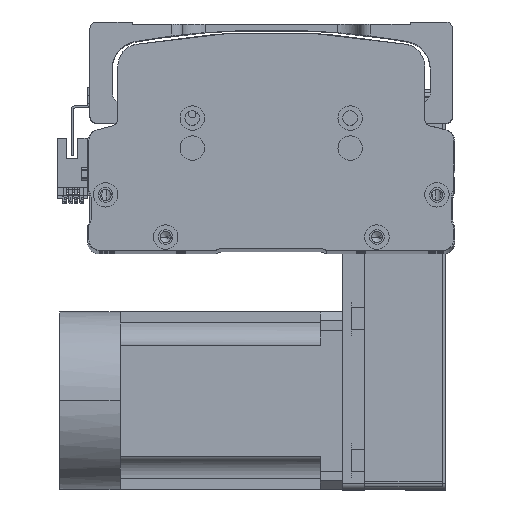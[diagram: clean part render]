
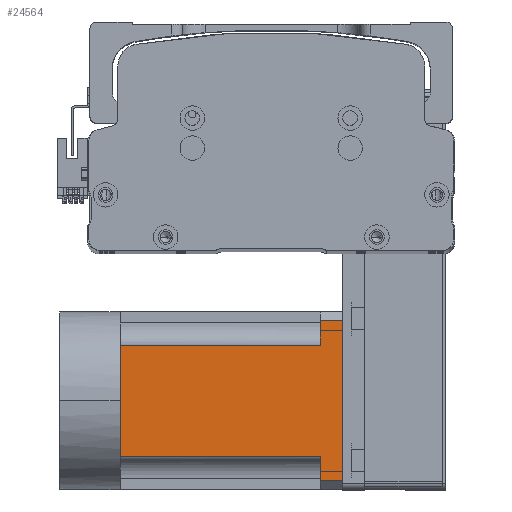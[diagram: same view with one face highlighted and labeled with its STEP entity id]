
A CAD part, top view. The second image highlights one B-rep face of the part: STEP entity #24564.
In plain terms, the highlighted planar face has unit normal (0, 0, 1) as drawn and (0, 0, -1) by its records, which use the part's own axes.
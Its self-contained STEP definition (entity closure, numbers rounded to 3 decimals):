
#808 = DIRECTION ( 'NONE',  ( -1., 0., 0. ) ) ;
#2509 = VERTEX_POINT ( 'NONE', #23896 ) ;
#4087 = EDGE_CURVE ( 'NONE', #47980, #42718, #7724, .T. ) ;
#4467 = PLANE ( 'NONE',  #12325 ) ;
#4782 = LINE ( 'NONE', #14209, #29147 ) ;
#4982 = ORIENTED_EDGE ( 'NONE', *, *, #4087, .T. ) ;
#5935 = DIRECTION ( 'NONE',  ( 0., -1., 0. ) ) ;
#6393 = CARTESIAN_POINT ( 'NONE',  ( -36., 90., -40. ) ) ;
#6971 = LINE ( 'NONE', #27913, #19891 ) ;
#7355 = DIRECTION ( 'NONE',  ( -1., 0., 0. ) ) ;
#7724 = LINE ( 'NONE', #54635, #20661 ) ;
#8429 = VECTOR ( 'NONE', #21073, 1000. ) ;
#8437 = VERTEX_POINT ( 'NONE', #42985 ) ;
#9337 = DIRECTION ( 'NONE',  ( -1., 0., 0. ) ) ;
#9422 = VECTOR ( 'NONE', #36217, 1000. ) ;
#10947 = LINE ( 'NONE', #31311, #9422 ) ;
#12161 = VERTEX_POINT ( 'NONE', #50855 ) ;
#12325 = AXIS2_PLACEMENT_3D ( 'NONE', #62752, #18924, #9337 ) ;
#13598 = VERTEX_POINT ( 'NONE', #27163 ) ;
#14209 = CARTESIAN_POINT ( 'NONE',  ( -25., -27., -40. ) ) ;
#14323 = EDGE_CURVE ( 'NONE', #12161, #62374, #47260, .T. ) ;
#18924 = DIRECTION ( 'NONE',  ( 0., 0., -1. ) ) ;
#19160 = VECTOR ( 'NONE', #27819, 1000. ) ;
#19199 = CARTESIAN_POINT ( 'NONE',  ( -25., 0., -40. ) ) ;
#19891 = VECTOR ( 'NONE', #57243, 1000. ) ;
#20661 = VECTOR ( 'NONE', #808, 1000. ) ;
#21073 = DIRECTION ( 'NONE',  ( -1., 0., 0. ) ) ;
#21756 = ORIENTED_EDGE ( 'NONE', *, *, #26372, .T. ) ;
#22898 = CARTESIAN_POINT ( 'NONE',  ( -36., -27., -40. ) ) ;
#23896 = CARTESIAN_POINT ( 'NONE',  ( -36., 100., -40. ) ) ;
#24564 = ADVANCED_FACE ( 'NONE', ( #29123 ), #4467, .T. ) ;
#24965 = EDGE_CURVE ( 'NONE', #36003, #2509, #30600, .T. ) ;
#26327 = VECTOR ( 'NONE', #7355, 1000. ) ;
#26372 = EDGE_CURVE ( 'NONE', #13598, #47980, #50184, .T. ) ;
#27163 = CARTESIAN_POINT ( 'NONE',  ( 36., 100., -40. ) ) ;
#27255 = EDGE_LOOP ( 'NONE', ( #48945, #21756, #4982, #57187, #54531, #28407, #41765, #50755, #54858 ) ) ;
#27673 = LINE ( 'NONE', #55771, #52022 ) ;
#27819 = DIRECTION ( 'NONE',  ( 0., 1., 0. ) ) ;
#27913 = CARTESIAN_POINT ( 'NONE',  ( -40., 90., -40. ) ) ;
#28407 = ORIENTED_EDGE ( 'NONE', *, *, #14323, .T. ) ;
#29123 = FACE_OUTER_BOUND ( 'NONE', #27255, .T. ) ;
#29147 = VECTOR ( 'NONE', #43348, 1000. ) ;
#29228 = EDGE_CURVE ( 'NONE', #62459, #12161, #10947, .T. ) ;
#30600 = LINE ( 'NONE', #22898, #19160 ) ;
#31311 = CARTESIAN_POINT ( 'NONE',  ( -40., 0., -40. ) ) ;
#34746 = CARTESIAN_POINT ( 'NONE',  ( 25., 0., -40. ) ) ;
#36003 = VERTEX_POINT ( 'NONE', #6393 ) ;
#36217 = DIRECTION ( 'NONE',  ( -1., 0., 0. ) ) ;
#36221 = LINE ( 'NONE', #36523, #26327 ) ;
#36523 = CARTESIAN_POINT ( 'NONE',  ( -40., 100., -40. ) ) ;
#40705 = EDGE_CURVE ( 'NONE', #8437, #36003, #6971, .T. ) ;
#41765 = ORIENTED_EDGE ( 'NONE', *, *, #59725, .T. ) ;
#42718 = VERTEX_POINT ( 'NONE', #62549 ) ;
#42985 = CARTESIAN_POINT ( 'NONE',  ( -25., 90., -40. ) ) ;
#43348 = DIRECTION ( 'NONE',  ( 0., 1., 0. ) ) ;
#43437 = CARTESIAN_POINT ( 'NONE',  ( 36., 90., -40. ) ) ;
#47098 = EDGE_CURVE ( 'NONE', #13598, #2509, #36221, .T. ) ;
#47260 = LINE ( 'NONE', #50220, #8429 ) ;
#47980 = VERTEX_POINT ( 'NONE', #43437 ) ;
#48223 = EDGE_CURVE ( 'NONE', #42718, #62459, #27673, .T. ) ;
#48945 = ORIENTED_EDGE ( 'NONE', *, *, #47098, .F. ) ;
#50184 = LINE ( 'NONE', #54655, #51727 ) ;
#50220 = CARTESIAN_POINT ( 'NONE',  ( -40., 0., -40. ) ) ;
#50755 = ORIENTED_EDGE ( 'NONE', *, *, #40705, .T. ) ;
#50855 = CARTESIAN_POINT ( 'NONE',  ( 0., 0., -40. ) ) ;
#51727 = VECTOR ( 'NONE', #5935, 1000. ) ;
#52022 = VECTOR ( 'NONE', #60669, 1000. ) ;
#54531 = ORIENTED_EDGE ( 'NONE', *, *, #29228, .T. ) ;
#54635 = CARTESIAN_POINT ( 'NONE',  ( -40., 90., -40. ) ) ;
#54655 = CARTESIAN_POINT ( 'NONE',  ( 36., -27., -40. ) ) ;
#54858 = ORIENTED_EDGE ( 'NONE', *, *, #24965, .T. ) ;
#55771 = CARTESIAN_POINT ( 'NONE',  ( 25., -27., -40. ) ) ;
#57187 = ORIENTED_EDGE ( 'NONE', *, *, #48223, .T. ) ;
#57243 = DIRECTION ( 'NONE',  ( -1., 0., 0. ) ) ;
#59725 = EDGE_CURVE ( 'NONE', #62374, #8437, #4782, .T. ) ;
#60669 = DIRECTION ( 'NONE',  ( 0., -1., 0. ) ) ;
#62374 = VERTEX_POINT ( 'NONE', #19199 ) ;
#62459 = VERTEX_POINT ( 'NONE', #34746 ) ;
#62549 = CARTESIAN_POINT ( 'NONE',  ( 25., 90., -40. ) ) ;
#62752 = CARTESIAN_POINT ( 'NONE',  ( -40., -27., -40. ) ) ;
